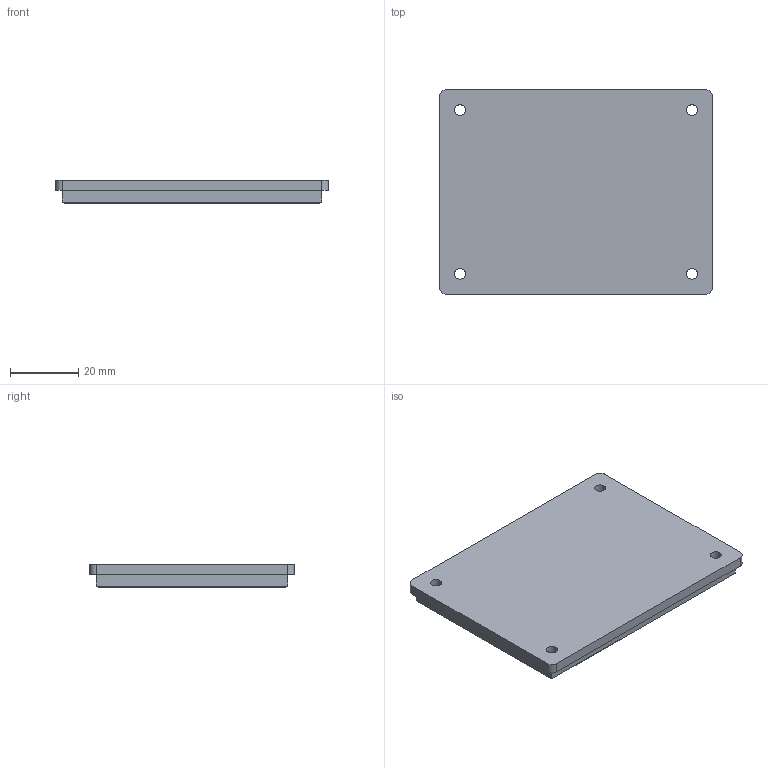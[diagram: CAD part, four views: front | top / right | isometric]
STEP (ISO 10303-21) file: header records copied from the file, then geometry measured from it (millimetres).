
FILE_DESCRIPTION(('Open CASCADE Model'),'2;1');
FILE_NAME('Open CASCADE Shape Model','2026-10-30T15:30:34',('Author'),( 'Open CASCADE'),'Open CASCADE STEP processor 7.9','Open CASCADE 7.9' ,'Unknown');
FILE_SCHEMA(('AUTOMOTIVE_DESIGN { 1 0 10303 214 1 1 1 1 }'));
Length unit declared in the file: millimetre
Products named in the file (2): d972ad04-d476-11f1-be27-01630af26361; cover_plate
Assembly tree (1 placements, depth 2):
  d972ad04-d476-11f1-be27-01630af26361
    cover_plate
Bounding box: 80 x 60 x 7 mm (x, y, z)
Volume: 31150.1 mm3; surface area: 11607.8 mm2
Topology: 1 solids, 1 shells, 27 faces, 64 edges, 40 vertices
Faces by surface type: plane 15, cylinder 8, cone 4
Full cylindrical faces by diameter (mm): 3.2 x4
Entity records: 1687 total; most frequent: CARTESIAN_POINT 341, DIRECTION 250, LINE 148, VECTOR 148, ORIENTED_EDGE 128, PCURVE 128, DEFINITIONAL_REPRESENTATION 128, EDGE_CURVE 64
